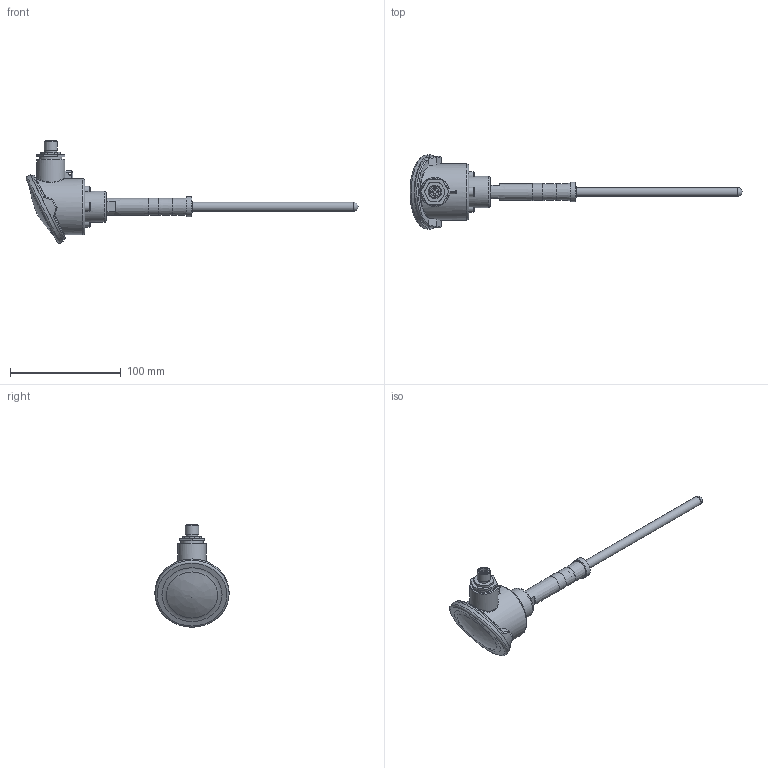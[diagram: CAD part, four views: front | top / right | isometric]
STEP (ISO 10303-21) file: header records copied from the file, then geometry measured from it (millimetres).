
FILE_DESCRIPTION(/* description */ ('Unknown'),/* implementation_level */ '2;1');
FILE_NAME(/* name */ 'TCR6-1120.XXXX.X110.X61X.0150',/* time_stamp */ '2020-07-24T11:40:13+02:00',/* author */ ('Unknown'),/* organization */ ('Unknown'),/* preprocessor_version */ 'ST-DEVELOPER v16.7',/* originating_system */ 'DEX',/* authorisation */ $);
FILE_SCHEMA (('AUTOMOTIVE_DESIGN {1 0 10303 214 3 1 1}'));
Length unit declared in the file: millimetre
Products named in the file (1): Part1
Bounding box: 299.35 x 67 x 92.39 mm (x, y, z)
Volume: 63033.9 mm3; surface area: 44711.7 mm2
Topology: 4 solids, 6 shells, 186 faces, 430 edges, 282 vertices
Faces by surface type: plane 78, cylinder 53, bspline 18, torus 18, cone 14, sphere 5
Full cylindrical faces by diameter (mm): 1.64 x4, 2.5 x1, 6 x1, 7.709 x1, 8 x1, 8.1 x3, 8.5 x1, 9.6 x1, 9.728 x1, 10.5 x1, 11.2 x2, 11.741 x1, 12 x1, 13.1 x2, 13.16 x1, 13.5 x1, 13.8 x1, 14.376 x2, 15.397 x1, 15.5 x1, 18 x1, 20 x1, 21 x1, 25.5 x1, 28.2 x1, 47 x1, 50 x1, 50.5 x1, 64.5 x1, 67 x1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
Entity records: 6514 total; most frequent: CARTESIAN_POINT 2439, DIRECTION 758, ORIENTED_EDGE 652, AXIS2_PLACEMENT_3D 340, EDGE_CURVE 326, FACE_BOUND 291, EDGE_LOOP 288, VERTEX_POINT 247
